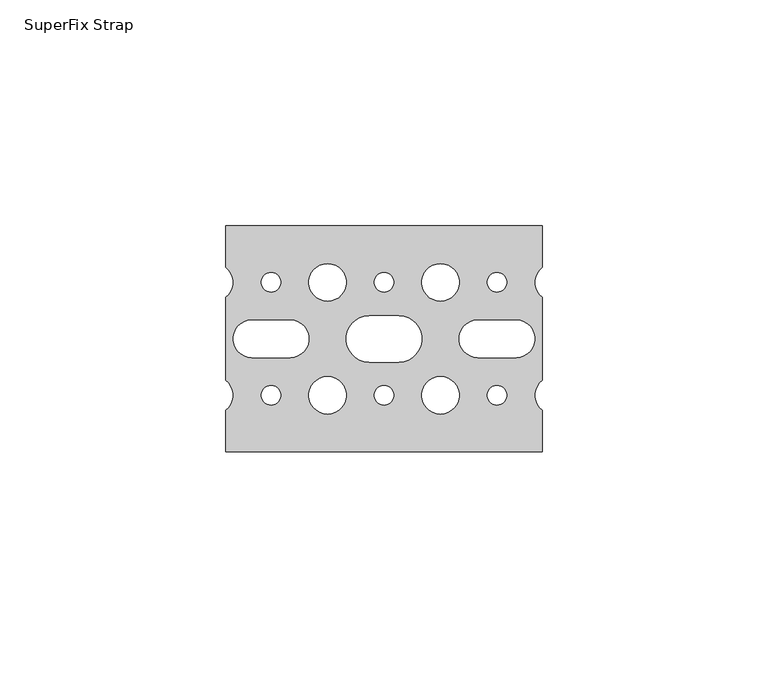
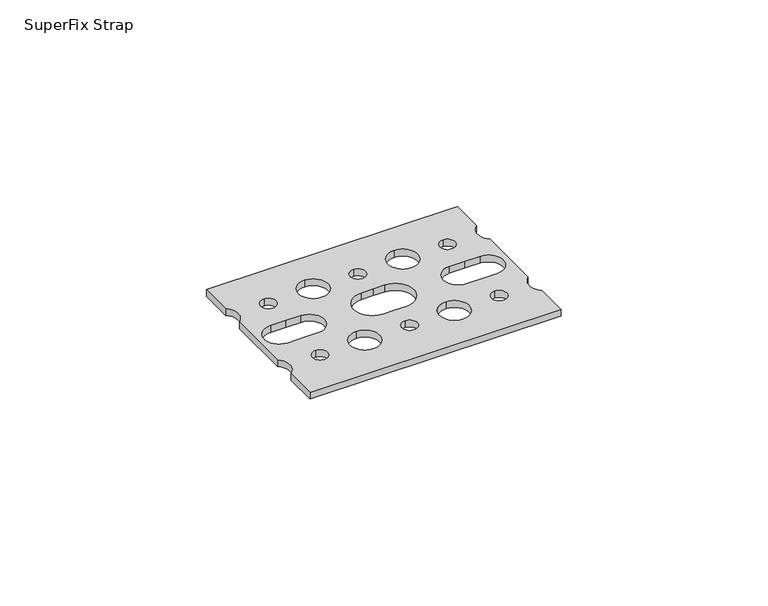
"""IFC4 building model written with IfcOpenShell, lengths in millimetres: valve geometry, Superfix Strap : SuperFix Strap."""

from ifc_helpers import new_model, si_unit, point, frame_2d, origin, origin_with_axes, place, context, project, spatial, polyline, circle_curve, trimmed, segment, composite_curve, outline, extrude, source, transform, mapped, element, save


def superfix_strap_170edda0(model_context):
    return source(origin(), model_context, "Body", "SweptSolid", [
        extrude(outline(composite_curve([segment(polyline([(35.0, -25.0), (-35.0, -25.0), (-35.0, -15.8124764)]), True, "CONTINUOUS"), segment(trimmed(circle_curve(frame_2d((-37.5, -12.5)), 4.15), [point((-35.0, -15.8124764))], [point((-35.0, -9.1875236))], True, "CARTESIAN"), True, "CONTINUOUS"), segment(polyline([(-35.0, -9.1875236), (-35.0, 9.1875236)]), True, "CONTINUOUS"), segment(trimmed(circle_curve(frame_2d((-37.5, 12.5)), 4.15), [point((-35.0, 9.1875236))], [point((-35.0, 15.8124764))], True, "CARTESIAN"), True, "CONTINUOUS"), segment(polyline([(-35.0, 15.8124764), (-35.0, 25.0), (35.0, 25.0), (35.0, 15.8124764)]), True, "CONTINUOUS"), segment(trimmed(circle_curve(frame_2d((37.5, 12.5)), 4.15), [point((35.0, 15.8124764))], [point((35.0, 9.1875236))], True, "CARTESIAN"), True, "CONTINUOUS"), segment(polyline([(35.0, 9.1875236), (35.0, -9.1875236)]), True, "CONTINUOUS"), segment(trimmed(circle_curve(frame_2d((37.5, -12.5)), 4.15), [point((35.0, -9.1875236))], [point((35.0, -15.8124764))], True, "CARTESIAN"), True, "CONTINUOUS"), segment(polyline([(35.0, -15.8124764), (35.0, -25.0)]), True, "CONTINUOUS")], self_intersect=False), holes=[composite_curve([segment(polyline([(25.0, 4.15), (20.75, 4.15)]), True, "CONTINUOUS"), segment(trimmed(circle_curve(frame_2d((20.75, 0.0)), 4.15), [point((20.75, 4.15))], [point((20.75, -4.15))], True, "CARTESIAN"), True, "CONTINUOUS"), segment(polyline([(20.75, -4.15), (25.0, -4.15), (29.25, -4.15)]), True, "CONTINUOUS"), segment(trimmed(circle_curve(frame_2d((29.25, 0.0)), 4.15), [point((29.25, -4.15))], [point((29.25, 4.15))], True, "CARTESIAN"), True, "CONTINUOUS"), segment(polyline([(29.25, 4.15), (25.0, 4.15)]), True, "CONTINUOUS")], self_intersect=False), composite_curve([segment(polyline([(0.0, 5.15), (-3.25, 5.15)]), True, "CONTINUOUS"), segment(trimmed(circle_curve(frame_2d((-3.25, 0.0)), 5.15), [point((-3.25, 5.15))], [point((-3.25, -5.15))], True, "CARTESIAN"), True, "CONTINUOUS"), segment(polyline([(-3.25, -5.15), (0.0, -5.15), (3.25, -5.15)]), True, "CONTINUOUS"), segment(trimmed(circle_curve(frame_2d((3.25, 0.0)), 5.15), [point((3.25, -5.15))], [point((3.25, 5.15))], True, "CARTESIAN"), True, "CONTINUOUS"), segment(polyline([(3.25, 5.15), (0.0, 5.15)]), True, "CONTINUOUS")], self_intersect=False), composite_curve([segment(trimmed(circle_curve(frame_2d((0.0, 12.5)), 2.15), [point((0.0, 14.65))], [point((0.0, 10.35))], True, "CARTESIAN"), True, "CONTINUOUS"), segment(trimmed(circle_curve(frame_2d((0.0, 12.5)), 2.15), [point((0.0, 10.35))], [point((0.0, 14.65))], True, "CARTESIAN"), True, "CONTINUOUS")], self_intersect=False), composite_curve([segment(trimmed(circle_curve(frame_2d((25.0, 12.5)), 2.15), [point((25.0, 14.65))], [point((25.0, 10.35))], True, "CARTESIAN"), True, "CONTINUOUS"), segment(trimmed(circle_curve(frame_2d((25.0, 12.5)), 2.15), [point((25.0, 10.35))], [point((25.0, 14.65))], True, "CARTESIAN"), True, "CONTINUOUS")], self_intersect=False), composite_curve([segment(trimmed(circle_curve(frame_2d((25.0, -12.5)), 2.15), [point((25.0, -10.35))], [point((25.0, -14.65))], True, "CARTESIAN"), True, "CONTINUOUS"), segment(trimmed(circle_curve(frame_2d((25.0, -12.5)), 2.15), [point((25.0, -14.65))], [point((25.0, -10.35))], True, "CARTESIAN"), True, "CONTINUOUS")], self_intersect=False), composite_curve([segment(trimmed(circle_curve(frame_2d((0.0, -12.5)), 2.15), [point((0.0, -10.35))], [point((0.0, -14.65))], True, "CARTESIAN"), True, "CONTINUOUS"), segment(trimmed(circle_curve(frame_2d((0.0, -12.5)), 2.15), [point((0.0, -14.65))], [point((0.0, -10.35))], True, "CARTESIAN"), True, "CONTINUOUS")], self_intersect=False), composite_curve([segment(trimmed(circle_curve(frame_2d((12.5, 12.5)), 4.15), [point((12.5, 16.65))], [point((12.5, 8.35))], True, "CARTESIAN"), True, "CONTINUOUS"), segment(trimmed(circle_curve(frame_2d((12.5, 12.5)), 4.15), [point((12.5, 8.35))], [point((12.5, 16.65))], True, "CARTESIAN"), True, "CONTINUOUS")], self_intersect=False), composite_curve([segment(trimmed(circle_curve(frame_2d((12.5, -12.5)), 4.15), [point((12.5, -8.35))], [point((12.5, -16.65))], True, "CARTESIAN"), True, "CONTINUOUS"), segment(trimmed(circle_curve(frame_2d((12.5, -12.5)), 4.15), [point((12.5, -16.65))], [point((12.5, -8.35))], True, "CARTESIAN"), True, "CONTINUOUS")], self_intersect=False), composite_curve([segment(trimmed(circle_curve(frame_2d((-20.75, 0.0)), 4.15), [point((-20.75, -4.15))], [point((-20.75, 4.15))], True, "CARTESIAN"), True, "CONTINUOUS"), segment(polyline([(-20.75, 4.15), (-25.0, 4.15), (-29.25, 4.15)]), True, "CONTINUOUS"), segment(trimmed(circle_curve(frame_2d((-29.25, 0.0)), 4.15), [point((-29.25, 4.15))], [point((-29.25, -4.15))], True, "CARTESIAN"), True, "CONTINUOUS"), segment(polyline([(-29.25, -4.15), (-25.0, -4.15), (-20.75, -4.15)]), True, "CONTINUOUS")], self_intersect=False), composite_curve([segment(trimmed(circle_curve(frame_2d((-25.0, 12.5)), 2.15), [point((-25.0, 14.65))], [point((-25.0, 10.35))], True, "CARTESIAN"), True, "CONTINUOUS"), segment(trimmed(circle_curve(frame_2d((-25.0, 12.5)), 2.15), [point((-25.0, 10.35))], [point((-25.0, 14.65))], True, "CARTESIAN"), True, "CONTINUOUS")], self_intersect=False), composite_curve([segment(trimmed(circle_curve(frame_2d((-25.0, -12.5)), 2.15), [point((-25.0, -10.35))], [point((-25.0, -14.65))], True, "CARTESIAN"), True, "CONTINUOUS"), segment(trimmed(circle_curve(frame_2d((-25.0, -12.5)), 2.15), [point((-25.0, -14.65))], [point((-25.0, -10.35))], True, "CARTESIAN"), True, "CONTINUOUS")], self_intersect=False), composite_curve([segment(trimmed(circle_curve(frame_2d((-12.5, 12.5)), 4.15), [point((-12.5, 16.65))], [point((-12.5, 8.35))], True, "CARTESIAN"), True, "CONTINUOUS"), segment(trimmed(circle_curve(frame_2d((-12.5, 12.5)), 4.15), [point((-12.5, 8.35))], [point((-12.5, 16.65))], True, "CARTESIAN"), True, "CONTINUOUS")], self_intersect=False), composite_curve([segment(trimmed(circle_curve(frame_2d((-12.5, -12.5)), 4.15), [point((-12.5, -8.35))], [point((-12.5, -16.65))], True, "CARTESIAN"), True, "CONTINUOUS"), segment(trimmed(circle_curve(frame_2d((-12.5, -12.5)), 4.15), [point((-12.5, -16.65))], [point((-12.5, -8.35))], True, "CARTESIAN"), True, "CONTINUOUS")], self_intersect=False)]), origin_with_axes(), (0.0, 0.0, 1.0), 2.0),
    ])


if __name__ == "__main__":
    model = new_model("IFC4")
    model_context = context("Model", 3, world=origin())
    ifc_project = project(units=[si_unit("LENGTHUNIT", "METRE", prefix="MILLI")], contexts=[model_context])
    site = spatial("IfcSite", under=ifc_project)
    building = spatial("IfcBuilding", under=site)
    placement = place(None, origin())
    superfix_strap_shape = superfix_strap_170edda0(model_context)
    element("IfcValve", 1, ObjectType="Superfix Strap : SuperFix Strap", at=placement, inside=building, context=model_context, shape_type="MappedRepresentation", body=[
        mapped(superfix_strap_shape, transform((0.0, 0.0, 0.0), x_axis=(1.0, 0.0, 0.0), y_axis=(0.0, 1.0, 0.0), z_axis=(0.0, 0.0, 1.0))),
    ])
    save(model, "model.ifc")
